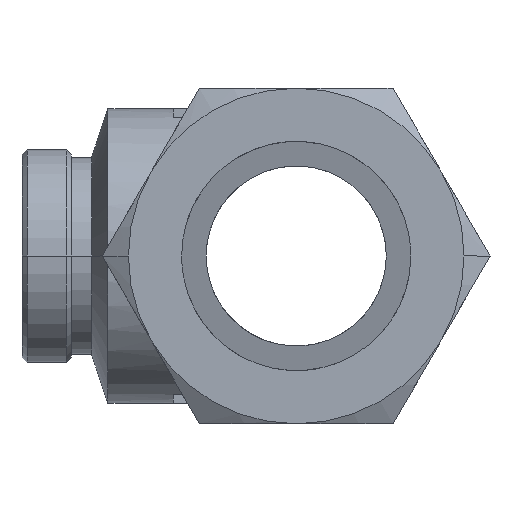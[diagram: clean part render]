
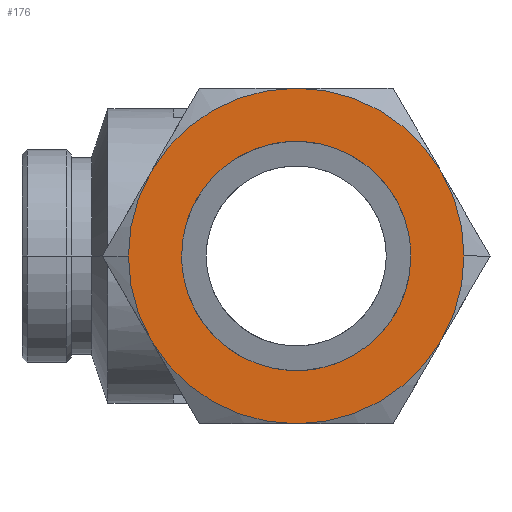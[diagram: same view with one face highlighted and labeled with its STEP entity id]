
A CAD part, left-side view. The second image highlights one B-rep face of the part: STEP entity #176.
In plain terms, the highlighted planar face has unit normal (-1, 0, 0).
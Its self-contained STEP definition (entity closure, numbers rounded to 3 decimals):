
#176 = ADVANCED_FACE( '', ( #389, #390 ), #391, .T. );
#389 = FACE_BOUND( '', #604, .T. );
#390 = FACE_OUTER_BOUND( '', #605, .T. );
#391 = PLANE( '', #606 );
#604 = EDGE_LOOP( '', ( #1372, #1373 ) );
#605 = EDGE_LOOP( '', ( #1374, #1375, #1376, #1377, #1378, #1379, #1380, #1381 ) );
#606 = AXIS2_PLACEMENT_3D( '', #1382, #1383, #1384 );
#1372 = ORIENTED_EDGE( '', *, *, #1393, .F. );
#1373 = ORIENTED_EDGE( '', *, *, #1628, .F. );
#1374 = ORIENTED_EDGE( '', *, *, #1614, .T. );
#1375 = ORIENTED_EDGE( '', *, *, #1414, .T. );
#1376 = ORIENTED_EDGE( '', *, *, #1609, .T. );
#1377 = ORIENTED_EDGE( '', *, *, #1610, .T. );
#1378 = ORIENTED_EDGE( '', *, *, #1416, .T. );
#1379 = ORIENTED_EDGE( '', *, *, #1611, .T. );
#1380 = ORIENTED_EDGE( '', *, *, #1612, .T. );
#1381 = ORIENTED_EDGE( '', *, *, #1613, .T. );
#1382 = CARTESIAN_POINT( '', ( -47., 17.25, 0. ) );
#1383 = DIRECTION( '', ( -1., 0., 0. ) );
#1384 = DIRECTION( '', ( 0., 1., 0. ) );
#1393 = EDGE_CURVE( '', #1629, #1632, #1633, .T. );
#1414 = EDGE_CURVE( '', #1670, #1672, #1674, .T. );
#1416 = EDGE_CURVE( '', #1678, #1675, #1679, .T. );
#1609 = EDGE_CURVE( '', #1672, #1897, #1987, .T. );
#1610 = EDGE_CURVE( '', #1897, #1678, #1988, .T. );
#1611 = EDGE_CURVE( '', #1675, #1915, #1989, .T. );
#1612 = EDGE_CURVE( '', #1915, #1953, #1990, .T. );
#1613 = EDGE_CURVE( '', #1953, #1935, #1991, .T. );
#1614 = EDGE_CURVE( '', #1935, #1670, #1992, .T. );
#1628 = EDGE_CURVE( '', #1632, #1629, #2006, .T. );
#1629 = VERTEX_POINT( '', #2007 );
#1632 = VERTEX_POINT( '', #2011 );
#1633 = CIRCLE( '', #2012, 14. );
#1670 = VERTEX_POINT( '', #2092 );
#1672 = VERTEX_POINT( '', #2095 );
#1674 = CIRCLE( '', #2106, 20.5 );
#1675 = VERTEX_POINT( '', #2107 );
#1678 = VERTEX_POINT( '', #2111 );
#1679 = CIRCLE( '', #2112, 20.5 );
#1897 = VERTEX_POINT( '', #2498 );
#1915 = VERTEX_POINT( '', #2592 );
#1935 = VERTEX_POINT( '', #2687 );
#1953 = VERTEX_POINT( '', #2780 );
#1987 = CIRCLE( '', #2960, 20.5 );
#1988 = CIRCLE( '', #2961, 20.5 );
#1989 = CIRCLE( '', #2962, 20.5 );
#1990 = CIRCLE( '', #2963, 20.5 );
#1991 = CIRCLE( '', #2964, 20.5 );
#1992 = CIRCLE( '', #2965, 20.5 );
#2006 = CIRCLE( '', #2979, 14. );
#2007 = CARTESIAN_POINT( '', ( -47., 14., 0. ) );
#2011 = CARTESIAN_POINT( '', ( -47., -14., 0. ) );
#2012 = AXIS2_PLACEMENT_3D( '', #2981, #2982, #2983 );
#2092 = CARTESIAN_POINT( '', ( -47., 20.5, 0. ) );
#2095 = CARTESIAN_POINT( '', ( -47., 17.754, -10.25 ) );
#2106 = AXIS2_PLACEMENT_3D( '', #3013, #3014, #3015 );
#2107 = CARTESIAN_POINT( '', ( -47., -20.5, 0. ) );
#2111 = CARTESIAN_POINT( '', ( -47., -17.754, -10.25 ) );
#2112 = AXIS2_PLACEMENT_3D( '', #3017, #3018, #3019 );
#2498 = CARTESIAN_POINT( '', ( -47., 0., -20.5 ) );
#2592 = CARTESIAN_POINT( '', ( -47., -17.754, 10.25 ) );
#2687 = CARTESIAN_POINT( '', ( -47., 17.754, 10.25 ) );
#2780 = CARTESIAN_POINT( '', ( -47., 0., 20.5 ) );
#2960 = AXIS2_PLACEMENT_3D( '', #3286, #3287, #3288 );
#2961 = AXIS2_PLACEMENT_3D( '', #3289, #3290, #3291 );
#2962 = AXIS2_PLACEMENT_3D( '', #3292, #3293, #3294 );
#2963 = AXIS2_PLACEMENT_3D( '', #3295, #3296, #3297 );
#2964 = AXIS2_PLACEMENT_3D( '', #3298, #3299, #3300 );
#2965 = AXIS2_PLACEMENT_3D( '', #3301, #3302, #3303 );
#2979 = AXIS2_PLACEMENT_3D( '', #3343, #3344, #3345 );
#2981 = CARTESIAN_POINT( '', ( -47., 0., 0. ) );
#2982 = DIRECTION( '', ( -1., 0., 0. ) );
#2983 = DIRECTION( '', ( 0., 1., 0. ) );
#3013 = CARTESIAN_POINT( '', ( -47., 0., 0. ) );
#3014 = DIRECTION( '', ( -1., 0., 0. ) );
#3015 = DIRECTION( '', ( 0., 1., 0. ) );
#3017 = CARTESIAN_POINT( '', ( -47., 0., 0. ) );
#3018 = DIRECTION( '', ( -1., 0., 0. ) );
#3019 = DIRECTION( '', ( 0., 1., 0. ) );
#3286 = CARTESIAN_POINT( '', ( -47., 0., 0. ) );
#3287 = DIRECTION( '', ( -1., 0., 0. ) );
#3288 = DIRECTION( '', ( 0., 1., 0. ) );
#3289 = CARTESIAN_POINT( '', ( -47., 0., 0. ) );
#3290 = DIRECTION( '', ( -1., 0., 0. ) );
#3291 = DIRECTION( '', ( 0., 1., 0. ) );
#3292 = CARTESIAN_POINT( '', ( -47., 0., 0. ) );
#3293 = DIRECTION( '', ( -1., 0., 0. ) );
#3294 = DIRECTION( '', ( 0., 1., 0. ) );
#3295 = CARTESIAN_POINT( '', ( -47., 0., 0. ) );
#3296 = DIRECTION( '', ( -1., 0., 0. ) );
#3297 = DIRECTION( '', ( 0., 1., 0. ) );
#3298 = CARTESIAN_POINT( '', ( -47., 0., 0. ) );
#3299 = DIRECTION( '', ( -1., 0., 0. ) );
#3300 = DIRECTION( '', ( 0., 1., 0. ) );
#3301 = CARTESIAN_POINT( '', ( -47., 0., 0. ) );
#3302 = DIRECTION( '', ( -1., 0., 0. ) );
#3303 = DIRECTION( '', ( 0., 1., 0. ) );
#3343 = CARTESIAN_POINT( '', ( -47., 0., 0. ) );
#3344 = DIRECTION( '', ( -1., 0., 0. ) );
#3345 = DIRECTION( '', ( 0., 1., 0. ) );
